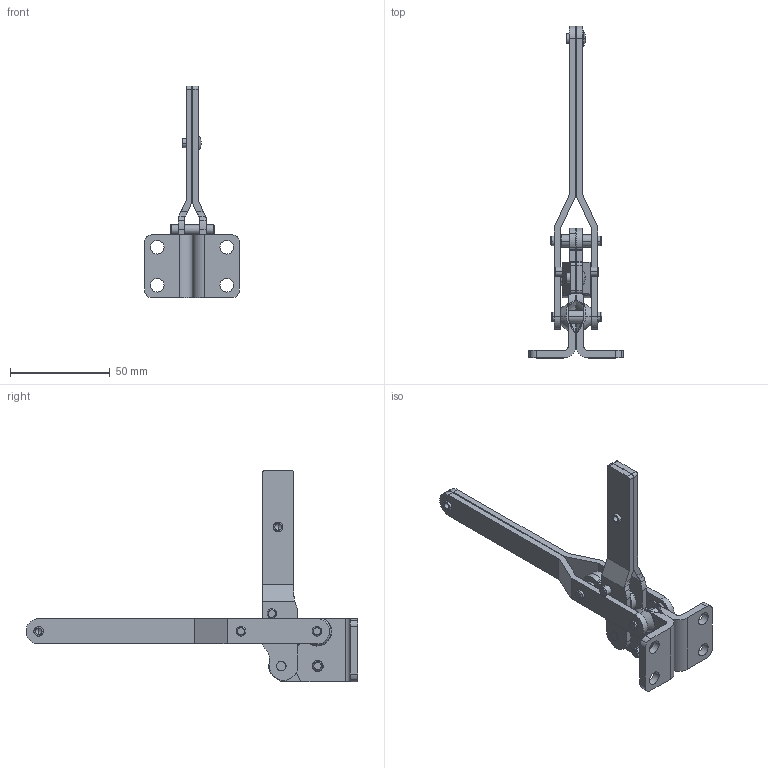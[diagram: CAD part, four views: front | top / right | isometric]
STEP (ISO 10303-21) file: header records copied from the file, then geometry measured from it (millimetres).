
FILE_DESCRIPTION((''),'2;1');
FILE_NAME('C:\1a10work\lapeer-mfg\200\rework\step\VC-200.stp','2007-01-24T13:01:59',('rtaylor'),(''),'Autodesk Inventor 9','Autodesk Inventor 9','');
FILE_SCHEMA(('AUTOMOTIVE_DESIGN { 1 0 10303 214 1 1 1 1 }'));
Length unit declared in the file: inch
Products named in the file (11): VC-200; 100012; 120002-L; 120002-R; 130028; 150009; 150088; 150089; 110005-L; 110005-R; 150042
Assembly tree (16 placements, depth 2):
  VC-200
    100012  x2
    120002-L
    120002-R
    130028  x2
    150009  x2
    150088  x2
    150089  x2
    110005-L
    110005-R
    150042  x2
Bounding box: 47.65 x 166.67 x 106.35 mm (x, y, z)
Volume: 36944.4 mm3; surface area: 30889.4 mm2
Topology: 16 solids, 16 shells, 356 faces, 878 edges, 556 vertices
Faces by surface type: cylinder 120, bspline 118, plane 76, torus 29, sphere 9, cone 4
Entity records: 10880 total; most frequent: CARTESIAN_POINT 4189, DIRECTION 1364, ORIENTED_EDGE 1342, EDGE_CURVE 671, AXIS2_PLACEMENT_3D 544, VERTEX_POINT 431, CIRCLE 349, EDGE_LOOP 318
